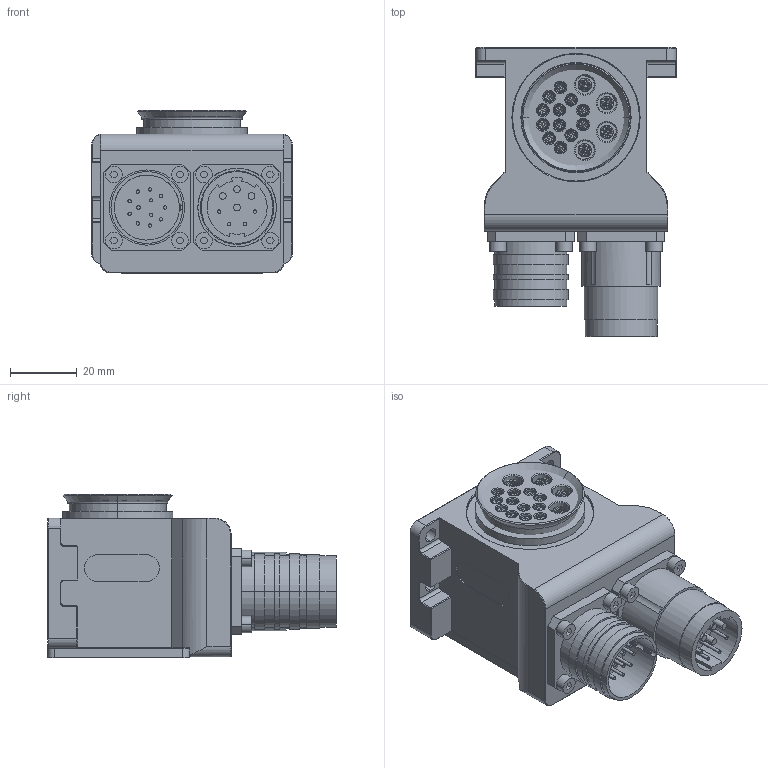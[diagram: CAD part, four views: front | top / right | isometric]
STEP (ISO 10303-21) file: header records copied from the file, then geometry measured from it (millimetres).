
FILE_DESCRIPTION (( 'STEP AP203' ), '1' );
FILE_NAME ('伺服模块机械手侧装配.STEP', '2024-08-26T02:36:53', ( 'Windows User' ), ( 'P R C' ), 'SwSTEP 2.0', 'SolidWorks 2018', '' );
FILE_SCHEMA (( 'CONFIG_CONTROL_DESIGN' ));
Length unit declared in the file: millimetre
Products named in the file (1): 伺服模块机械手侧装配
Bounding box: 60 x 86.5 x 48.9 mm (x, y, z)
Volume: 125189.9 mm3; surface area: 31236.1 mm2
Topology: 2 solids, 20 shells, 1297 faces, 2848 edges, 1678 vertices
Faces by surface type: plane 819, cylinder 298, cone 168, bspline 8, torus 4
Entity records: 34978 total; most frequent: CARTESIAN_POINT 7025, DIRECTION 5859, ORIENTED_EDGE 5664, EDGE_CURVE 2832, AXIS2_PLACEMENT_3D 2096, VERTEX_POINT 1678, LINE 1667, VECTOR 1667
